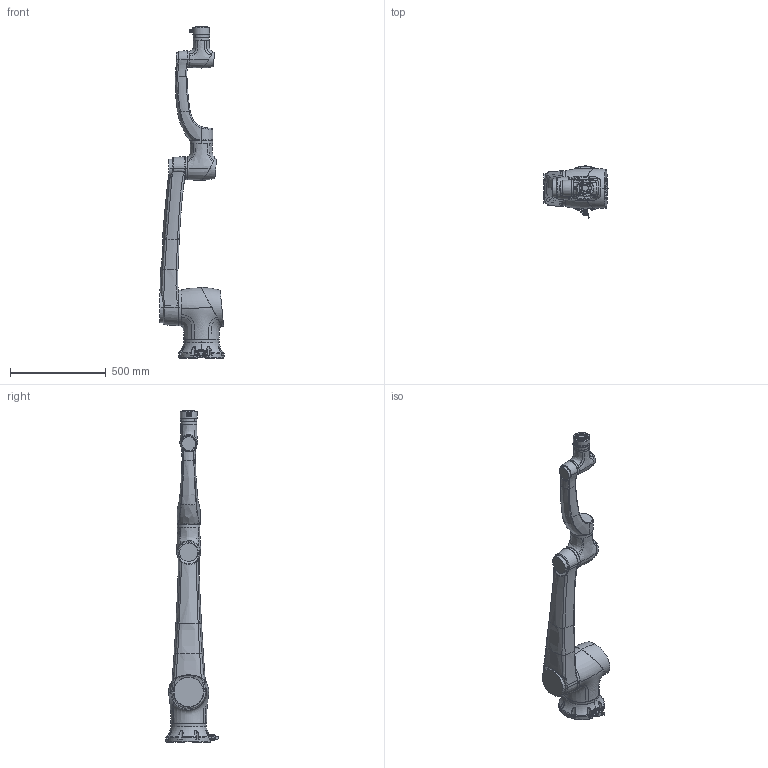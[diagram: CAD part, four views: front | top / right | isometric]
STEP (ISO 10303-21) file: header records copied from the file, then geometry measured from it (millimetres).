
FILE_DESCRIPTION (( 'STEP AP214' ), '1' );
FILE_NAME ('E15 机械手本体模型-总线型.STEP', '2023-01-11T03:50:30', ( '' ), ( '' ), 'SwSTEP 2.0', 'SolidWorks 2020', '' );
FILE_SCHEMA (( 'AUTOMOTIVE_DESIGN' ));
Length unit declared in the file: millimetre
Products named in the file (52): 1419713瑤脣裔; Part1^12B2(2); Symmetry of Part5.1^12B2(2); MODULE_40; MODULE_17; Part13.1^12B2(2)_12B2-带蓝灯-IP67防水-自复红波按钮2; Elfin_菁釱郪璃_脣芛釱; Part7.1^12B2(2)_12B2-带蓝灯-IP67防水-自复红波按钮2; 12B2(2); Part5.1^12B2(2)_12B2-带蓝灯-IP67防水-自复红波按钮2; Part22^12B2(2); Part28.1.1^12B2(2)_12B2-带蓝灯-IP67防水-自复红波按钮2; MK2_UP; Part13.1.2^12B2(2); M5×30内六角圆柱头螺钉不锈钢GB／T70．1-2000; Part6^12B2(2); 12B2(2)^12B2-带蓝灯-IP67防水-自复红波按钮2; Symmetry of Part5^12B2(2)_12B2-带蓝灯-IP67防水-自复红波按钮2; Part5.1^12B2(2); Part28.1.1.1^12B2(2)_12B2-带蓝灯-IP67防水-自复红波按钮2; 瑤脣蹟譫; Elfin_菁釱脣芛; 12B2-带蓝灯-IP67防水-自复红波按钮; E15藺傷耀倰; Part28.1.1.1^12B2(2); Symmetry of Part5^12B2(2); 藺傷褲; E15-25耀郪; MK2_DOWN; Part7.1^12B2(2); Part30^12B2(2)_12B2-带蓝灯-IP67防水-自复红波按钮2; Elfin_底座组件_插头卡环; Part30^12B2(2); Part16^12B2(2); Part5^12B2(2)_12B2-带蓝灯-IP67防水-自复红波按钮2; Part13.1.2^12B2(2)_12B2-带蓝灯-IP67防水-自复红波按钮2; Part7^12B2(2)_12B2-带蓝灯-IP67防水-自复红波按钮2; Elfin_菁釱郪璃_脣芛裔; 1419713; Part5^12B2(2)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
Assembly tree (55 placements, depth 5):
  E15 机械手本体模型-总线型
    Elfin_菁釱脣芛
      Elfin_菁釱郪璃_脣芛釱
      Elfin_菁釱郪璃_脣芛裔
      Elfin_底座组件_插头卡环
    BASE
    MK2_UP
    MK2_DOWN
    MODULE_40
    E15-25耀郪
    MODULE_17
    E15藺傷耀倰
      藺傷蛌諉輸
      瑤脣蹟譫
      1419713
      M5×30内六角圆柱头螺钉不锈钢GB／T70．1-2000  x4
      1419713瑤脣裔
      藺傷褲
      12B2-带蓝灯-IP67防水-自复红波按钮
        12B2(2)
          Part7^12B2(2)
          Part5^12B2(2)
          Part5.1^12B2(2)
          Symmetry of Part5^12B2(2)
          Symmetry of Part5.1^12B2(2)
          Part13.1.2^12B2(2)
          Part30^12B2(2)
          Part13.1^12B2(2)
          Part6^12B2(2)
          Part28.1.1^12B2(2)
          Part1^12B2(2)
          Part7.1^12B2(2)
          Part16^12B2(2)
          Part22^12B2(2)
          Part28.1.1.1^12B2(2)
          M12金属按钮开关螺母
      12B2(2)^12B2-带蓝灯-IP67防水-自复红波按钮2
        Part7^12B2(2)_12B2-带蓝灯-IP67防水-自复红波按钮2
        Part5^12B2(2)_12B2-带蓝灯-IP67防水-自复红波按钮2
        Part5.1^12B2(2)_12B2-带蓝灯-IP67防水-自复红波按钮2
        Symmetry of Part5^12B2(2)_12B2-带蓝灯-IP67防水-自复红波按钮2
        Symmetry of Part5.1^12B2(2)_12B2-带蓝灯-IP67防水-自复红波按钮2
        Part13.1.2^12B2(2)_12B2-带蓝灯-IP67防水-自复红波按钮2
        Part30^12B2(2)_12B2-带蓝灯-IP67防水-自复红波按钮2
        Part13.1^12B2(2)_12B2-带蓝灯-IP67防水-自复红波按钮2
        Part6
        Part28.1.1^12B2(2)_12B2-带蓝灯-IP67防水-自复红波按钮2
        Part1^12B2(2)_12B2-带蓝灯-IP67防水-自复红波按钮2
        Part7.1^12B2(2)_12B2-带蓝灯-IP67防水-自复红波按钮2
        Part16^12B2(2)_12B2-带蓝灯-IP67防水-自复红波按钮2
        Part22^12B2(2)_12B2-带蓝灯-IP67防水-自复红波按钮2
        Part28.1.1.1^12B2(2)_12B2-带蓝灯-IP67防水-自复红波按钮2
        M12金属按钮开关螺母
Bounding box: 335.2 x 272.44 x 1735.5 mm (x, y, z)
Volume: 26409072.8 mm3; surface area: 1211783 mm2
Topology: 49 solids, 79 shells, 4068 faces, 10792 edges, 6953 vertices
Faces by surface type: plane 2080, cylinder 963, bspline 665, cone 224, torus 126, sphere 10
Entity records: 359680 total; most frequent: CARTESIAN_POINT 260510, ORIENTED_EDGE 21100, DIRECTION 16896, EDGE_CURVE 10552, VERTEX_POINT 6830, VECTOR 5862, LINE 5862, AXIS2_PLACEMENT_3D 5517
